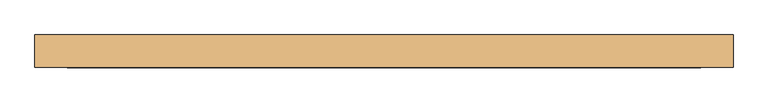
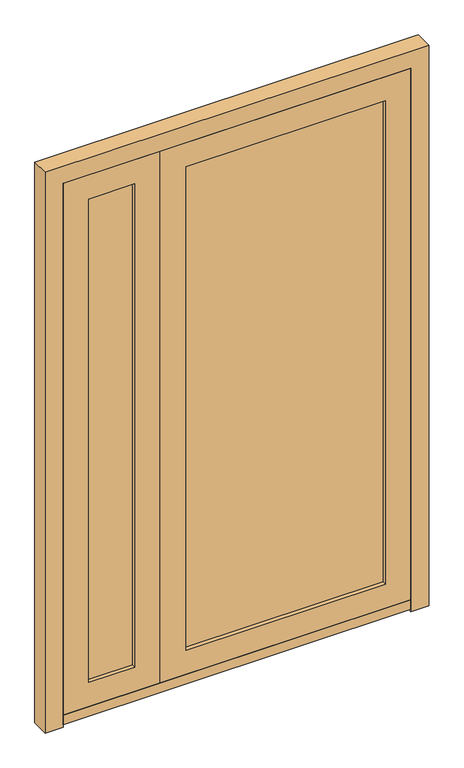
"""IFC4 building model written with IfcOpenShell, lengths in millimetres: door geometry, Dr_Дверь_v2.1 : ДВСТД Дп Ос 23-15 EIS60."""

from ifc_helpers import new_model, si_unit, frame, origin, place, context, project, spatial, polyline, outline, extrude, source, transform, mapped, element, save


def door_ca2bc70d(model_context):
    return source(origin(), model_context, "Body", "SweptSolid", [
        extrude(outline(polyline([(-36.0, -625.0), (-36.0, -555.0), (2210.0, -555.0), (2210.0, 805.0), (-36.0, 805.0), (-36.0, 875.0), (2280.0, 875.0), (2280.0, -625.0), (-36.0, -625.0)])), frame((0.0, 55.0, 0.0), z_axis=(0.0, 1.0, 0.0), x_axis=(0.0, 0.0, 1.0)), (0.0, 0.0, 1.0), 70.0),
        extrude(outline(polyline([(805.0, 125.0), (805.0, 55.0), (-555.0, 55.0), (-555.0, 125.0), (805.0, 125.0)])), frame((0.0, 0.0, -26.0), z_axis=(0.0, 0.0, 1.0), x_axis=(1.0, 0.0, 0.0)), (0.0, 0.0, 1.0), 40.0),
        extrude(outline(polyline([(2210.0, 805.0), (2210.0, -175.0005417), (14.0, -175.0005417), (14.0, 805.0), (2210.0, 805.0)]), holes=[polyline([(114.0, 705.0), (114.0, -75.0), (2110.0, -75.0), (2110.0, 705.0), (114.0, 705.0)])]), frame((0.0, 55.0, 0.0), z_axis=(0.0, 1.0, 0.0), x_axis=(0.0, 0.0, 1.0)), (0.0, 0.0, 1.0), 70.0),
        extrude(outline(polyline([(-75.0, 75.0), (705.0, 75.0), (705.0, 70.0), (-75.0, 70.0), (-75.0, 75.0)])), frame((0.0, 0.0, 114.0), z_axis=(0.0, 0.0, 1.0), x_axis=(1.0, 0.0, 0.0)), (0.0, 0.0, 1.0), 1996.0),
        extrude(outline(polyline([(2210.0, -555.0), (14.0, -555.0), (14.0, -174.9994583), (2210.0, -174.9994583), (2210.0, -555.0)]), holes=[polyline([(114.0, -455.0), (2110.0, -455.0), (2110.0, -275.0), (114.0, -275.0), (114.0, -455.0)])]), frame((0.0, 55.0, 0.0), z_axis=(0.0, 1.0, 0.0), x_axis=(0.0, 0.0, 1.0)), (0.0, 0.0, 1.0), 70.0),
        extrude(outline(polyline([(-275.0, 75.0), (-275.0, 70.0), (-455.0, 70.0), (-455.0, 75.0), (-275.0, 75.0)])), frame((0.0, 0.0, 114.0), z_axis=(0.0, 0.0, 1.0), x_axis=(1.0, 0.0, 0.0)), (0.0, 0.0, 1.0), 1996.0),
    ])


if __name__ == "__main__":
    model = new_model("IFC4")
    model_context = context("Model", 3, world=origin())
    ifc_project = project(units=[si_unit("LENGTHUNIT", "METRE", prefix="MILLI")], contexts=[model_context])
    site = spatial("IfcSite", under=ifc_project)
    building = spatial("IfcBuilding", under=site)
    placement = place(None, origin())
    door_shape = door_ca2bc70d(model_context)
    element("IfcDoor", 1, ObjectType="Dr_Дверь_v2.1 : ДВСТД Дп Ос 23-15 EIS60", at=placement, inside=building, context=model_context, shape_type="MappedRepresentation", body=[
        mapped(door_shape, transform((0.0, 0.0, 0.0), x_axis=(1.0, 0.0, 0.0), y_axis=(0.0, 1.0, 0.0), z_axis=(0.0, 0.0, 1.0))),
    ])
    save(model, "model.ifc")
